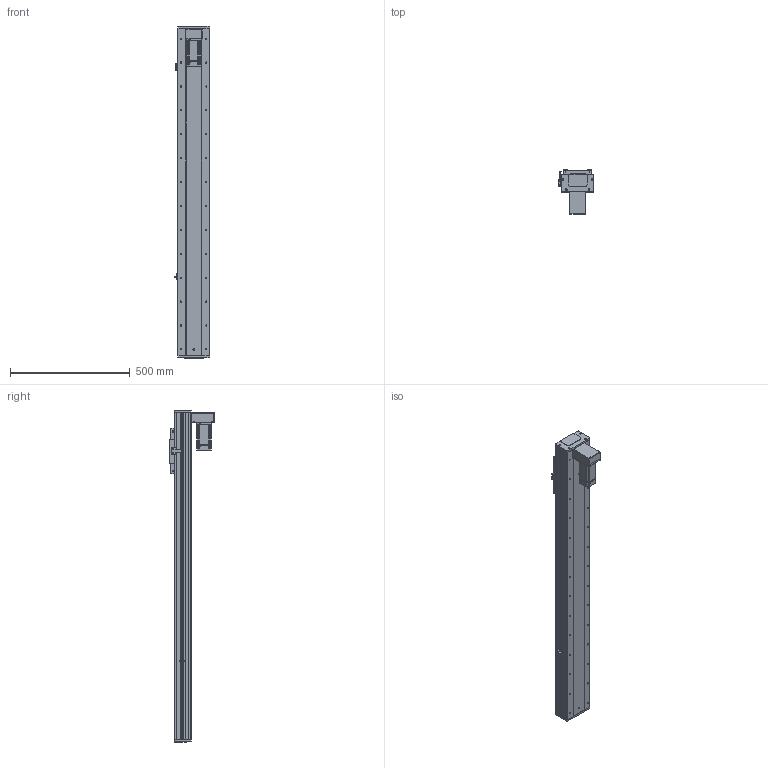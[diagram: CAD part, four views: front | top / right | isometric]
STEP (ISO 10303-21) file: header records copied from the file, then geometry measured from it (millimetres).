
FILE_DESCRIPTION (( 'STEP AP203' ), '1' );
FILE_NAME ('RY140F-L2020-300-BK.SLDASM_1100.step', '2021-03-02T08:27:21', ( '盈信电脑' ), ( '东莞市道滘镇水果街19号' ), 'SwSTEP 2.0', 'SolidWorks 2012', '' );
FILE_SCHEMA (( 'CONFIG_CONTROL_DESIGN' ));
Length unit declared in the file: millimetre
Products named in the file (21): RY140F-L2020-300-BK.SLDASM_1100; RY140F-直连型材铝滑块(16丝杆); 滅袉蝶18-10; 侐源滅袉蝶; RY140F-詩湍嘐隅輸; RY140F-狟殏萇儂欶(400W); RY140F-狟殏萇儂啣(400W M5); RY140F-詩湍揤え; 侂狟400W侜督萇儂; 覜茼ん672; RY140F-672覜茼んえ; 15; RY100F-詩湍揤踡謫; RY140F-后盖板(铝件）; RY140F-詩湍幗謫粣; RY140F-直连型材铝滑块连接座; 藻笠沭; RY140F-滅鳥奻裔; RY140F-300-BK倰第奻裔啣_1100; RY140F-300-BK倰第菁釱_1100; RY140F-300-BK蛌殏詩湍_1100
Assembly tree (26 placements, depth 3):
  RY140F-L2020-300-BK.SLDASM_1100
    RY140F-300-BK倰第菁釱_1100
    RY140F-300-BK倰第奻裔啣_1100  x2
    RY140F-300-BK蛌殏詩湍_1100
    RY140F-直连型材铝滑块连接座
    RY140F-滅鳥奻裔
    RY140F-詩湍幗謫粣
    藻笠沭  x2
    RY100F-詩湍揤踡謫
    RY140F-后盖板(铝件）  x2
    侂狟400W侜督萇儂
      15
    覜茼ん672
    RY140F-672覜茼んえ
    RY140F-詩湍揤え  x2
    侐源滅袉蝶  x2
    RY140F-狟殏萇儂啣(400W M5)
    RY140F-狟殏萇儂欶(400W)
    RY140F-詩湍嘐隅輸
    滅袉蝶18-10  x2
    RY140F-直连型材铝滑块(16丝杆)
Bounding box: 148.7 x 184.5 x 1389 mm (x, y, z)
Volume: 5103727.7 mm3; surface area: 1824092.2 mm2
Topology: 25 solids, 25 shells, 2092 faces, 5716 edges, 3628 vertices
Faces by surface type: cylinder 1023, plane 811, cone 232, bspline 22, torus 4
Entity records: 65660 total; most frequent: CARTESIAN_POINT 13707, DIRECTION 10535, ORIENTED_EDGE 10196, EDGE_CURVE 5098, AXIS2_PLACEMENT_3D 3784, VERTEX_POINT 3332, VECTOR 2967, LINE 2967
